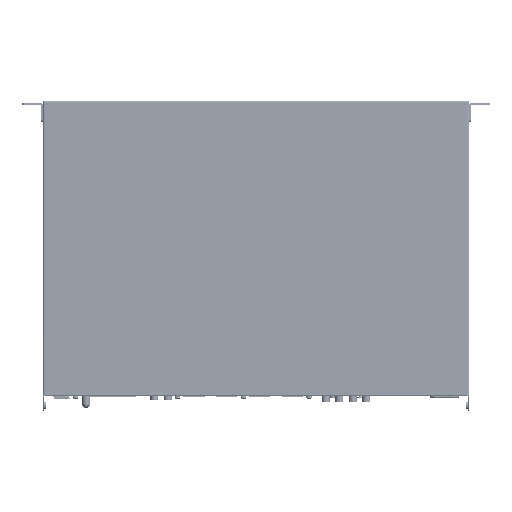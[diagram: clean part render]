
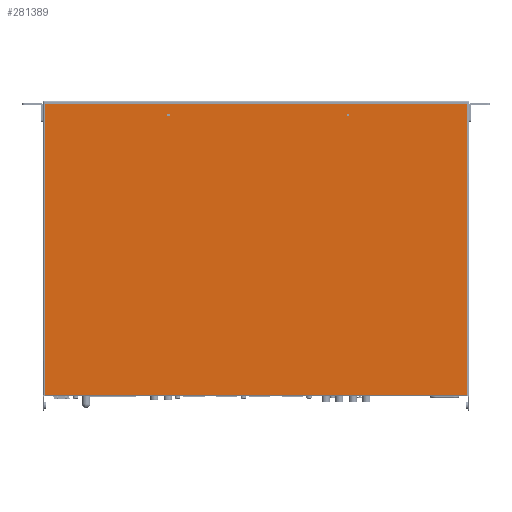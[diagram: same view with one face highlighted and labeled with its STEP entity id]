
A CAD part, front view. The second image highlights one B-rep face of the part: STEP entity #281389.
In plain terms, the highlighted planar face has unit normal (0, -1, 0).
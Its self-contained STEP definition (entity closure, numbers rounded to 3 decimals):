
#1969 = CIRCLE ( 'NONE', #73060, 1. ) ;
#2037 = FACE_BOUND ( 'NONE', #302723, .T. ) ;
#2705 = VECTOR ( 'NONE', #191412, 1000. ) ;
#8911 = VERTEX_POINT ( 'NONE', #145426 ) ;
#13618 = VERTEX_POINT ( 'NONE', #243060 ) ;
#16380 = LINE ( 'NONE', #221630, #218670 ) ;
#23627 = CARTESIAN_POINT ( 'NONE',  ( -218., 0., 301.965 ) ) ;
#24613 = EDGE_CURVE ( 'NONE', #56977, #305560, #1969, .T. ) ;
#26181 = EDGE_CURVE ( 'NONE', #257317, #201937, #157760, .T. ) ;
#31898 = CARTESIAN_POINT ( 'NONE',  ( 217.737, 0., 302. ) ) ;
#33779 = EDGE_CURVE ( 'NONE', #305560, #151663, #16380, .T. ) ;
#36718 = ORIENTED_EDGE ( 'NONE', *, *, #279386, .T. ) ;
#47202 = LINE ( 'NONE', #202835, #189905 ) ;
#48946 = CARTESIAN_POINT ( 'NONE',  ( 96.5, 0., 290.5 ) ) ;
#56977 = VERTEX_POINT ( 'NONE', #187961 ) ;
#58428 = DIRECTION ( 'NONE',  ( 0., -1., 0. ) ) ;
#62946 = EDGE_LOOP ( 'NONE', ( #282544, #90980, #93365, #214859, #286548, #130353 ) ) ;
#66066 = DIRECTION ( 'NONE',  ( -1., 0., 0. ) ) ;
#67152 = AXIS2_PLACEMENT_3D ( 'NONE', #314929, #58428, #80729 ) ;
#73060 = AXIS2_PLACEMENT_3D ( 'NONE', #178257, #309863, #282486 ) ;
#73390 = CIRCLE ( 'NONE', #308126, 1.5 ) ;
#75007 = AXIS2_PLACEMENT_3D ( 'NONE', #139429, #161710, #158328 ) ;
#80729 = DIRECTION ( 'NONE',  ( -1., 0., 0. ) ) ;
#82338 = EDGE_LOOP ( 'NONE', ( #163756, #36718 ) ) ;
#83174 = DIRECTION ( 'NONE',  ( 1., 0., 0. ) ) ;
#83261 = CIRCLE ( 'NONE', #263332, 1.5 ) ;
#84108 = FACE_BOUND ( 'NONE', #82338, .T. ) ;
#84654 = VERTEX_POINT ( 'NONE', #23627 ) ;
#87138 = CARTESIAN_POINT ( 'NONE',  ( -218., 0., 2. ) ) ;
#90971 = CARTESIAN_POINT ( 'NONE',  ( 93.5, 0., 290.5 ) ) ;
#90980 = ORIENTED_EDGE ( 'NONE', *, *, #293282, .T. ) ;
#93365 = ORIENTED_EDGE ( 'NONE', *, *, #169242, .T. ) ;
#105675 = ORIENTED_EDGE ( 'NONE', *, *, #203355, .T. ) ;
#108853 = DIRECTION ( 'NONE',  ( 0., 1., 0. ) ) ;
#110468 = CIRCLE ( 'NONE', #208796, 1.5 ) ;
#113353 = CIRCLE ( 'NONE', #75007, 1.5 ) ;
#130353 = ORIENTED_EDGE ( 'NONE', *, *, #24613, .T. ) ;
#132417 = DIRECTION ( 'NONE',  ( 0., 1., 0. ) ) ;
#137459 = CARTESIAN_POINT ( 'NONE',  ( -217.737, 0., 301. ) ) ;
#139429 = CARTESIAN_POINT ( 'NONE',  ( 95., 0., 290.5 ) ) ;
#142878 = VERTEX_POINT ( 'NONE', #90971 ) ;
#145426 = CARTESIAN_POINT ( 'NONE',  ( -88.5, 0., 290.5 ) ) ;
#151663 = VERTEX_POINT ( 'NONE', #332575 ) ;
#157760 = LINE ( 'NONE', #87138, #2705 ) ;
#158328 = DIRECTION ( 'NONE',  ( 1., 0., 0. ) ) ;
#161710 = DIRECTION ( 'NONE',  ( 0., 1., 0. ) ) ;
#163756 = ORIENTED_EDGE ( 'NONE', *, *, #300051, .T. ) ;
#169242 = EDGE_CURVE ( 'NONE', #84654, #257317, #47202, .T. ) ;
#178257 = CARTESIAN_POINT ( 'NONE',  ( 217.737, 0., 301. ) ) ;
#187094 = DIRECTION ( 'NONE',  ( 0., -1., 0. ) ) ;
#187961 = CARTESIAN_POINT ( 'NONE',  ( 218., 0., 301.965 ) ) ;
#189905 = VECTOR ( 'NONE', #307099, 1000. ) ;
#191412 = DIRECTION ( 'NONE',  ( 1., 0., 0. ) ) ;
#201937 = VERTEX_POINT ( 'NONE', #336984 ) ;
#202835 = CARTESIAN_POINT ( 'NONE',  ( -218., 0., 302. ) ) ;
#203355 = EDGE_CURVE ( 'NONE', #142878, #288329, #113353, .T. ) ;
#204579 = CARTESIAN_POINT ( 'NONE',  ( 218., 0., 302. ) ) ;
#208796 = AXIS2_PLACEMENT_3D ( 'NONE', #260646, #132417, #262327 ) ;
#210661 = PLANE ( 'NONE',  #67152 ) ;
#214859 = ORIENTED_EDGE ( 'NONE', *, *, #26181, .T. ) ;
#218670 = VECTOR ( 'NONE', #66066, 1000. ) ;
#221630 = CARTESIAN_POINT ( 'NONE',  ( 220., 0., 302. ) ) ;
#226204 = DIRECTION ( 'NONE',  ( 1., 0., 0. ) ) ;
#243060 = CARTESIAN_POINT ( 'NONE',  ( -91.5, 0., 290.5 ) ) ;
#248900 = ORIENTED_EDGE ( 'NONE', *, *, #337554, .T. ) ;
#252049 = EDGE_CURVE ( 'NONE', #56977, #201937, #262587, .T. ) ;
#255464 = CIRCLE ( 'NONE', #310167, 1. ) ;
#257317 = VERTEX_POINT ( 'NONE', #331437 ) ;
#260646 = CARTESIAN_POINT ( 'NONE',  ( -90., 0., 290.5 ) ) ;
#262327 = DIRECTION ( 'NONE',  ( 1., 0., 0. ) ) ;
#262587 = LINE ( 'NONE', #204579, #291432 ) ;
#263332 = AXIS2_PLACEMENT_3D ( 'NONE', #264368, #108853, #83174 ) ;
#264368 = CARTESIAN_POINT ( 'NONE',  ( -90., 0., 290.5 ) ) ;
#274174 = CARTESIAN_POINT ( 'NONE',  ( 95., 0., 290.5 ) ) ;
#279386 = EDGE_CURVE ( 'NONE', #13618, #8911, #83261, .T. ) ;
#281389 = ADVANCED_FACE ( 'NONE', ( #2037, #84108, #292617 ), #210661, .T. ) ;
#282486 = DIRECTION ( 'NONE',  ( -1., 0., 0. ) ) ;
#282544 = ORIENTED_EDGE ( 'NONE', *, *, #33779, .T. ) ;
#286548 = ORIENTED_EDGE ( 'NONE', *, *, #252049, .F. ) ;
#288329 = VERTEX_POINT ( 'NONE', #48946 ) ;
#291432 = VECTOR ( 'NONE', #337847, 1000. ) ;
#292617 = FACE_OUTER_BOUND ( 'NONE', #62946, .T. ) ;
#293282 = EDGE_CURVE ( 'NONE', #151663, #84654, #255464, .T. ) ;
#300051 = EDGE_CURVE ( 'NONE', #8911, #13618, #110468, .T. ) ;
#302723 = EDGE_LOOP ( 'NONE', ( #248900, #105675 ) ) ;
#304867 = DIRECTION ( 'NONE',  ( 0., 1., 0. ) ) ;
#305560 = VERTEX_POINT ( 'NONE', #31898 ) ;
#307099 = DIRECTION ( 'NONE',  ( 0., 0., -1. ) ) ;
#308126 = AXIS2_PLACEMENT_3D ( 'NONE', #274174, #304867, #226204 ) ;
#309863 = DIRECTION ( 'NONE',  ( 0., -1., 0. ) ) ;
#310167 = AXIS2_PLACEMENT_3D ( 'NONE', #137459, #187094, #325047 ) ;
#314929 = CARTESIAN_POINT ( 'NONE',  ( 220., 0., 302. ) ) ;
#325047 = DIRECTION ( 'NONE',  ( -1., 0., 0. ) ) ;
#331437 = CARTESIAN_POINT ( 'NONE',  ( -218., 0., 2. ) ) ;
#332575 = CARTESIAN_POINT ( 'NONE',  ( -217.737, 0., 302. ) ) ;
#336984 = CARTESIAN_POINT ( 'NONE',  ( 218., 0., 2. ) ) ;
#337554 = EDGE_CURVE ( 'NONE', #288329, #142878, #73390, .T. ) ;
#337847 = DIRECTION ( 'NONE',  ( 0., 0., -1. ) ) ;
